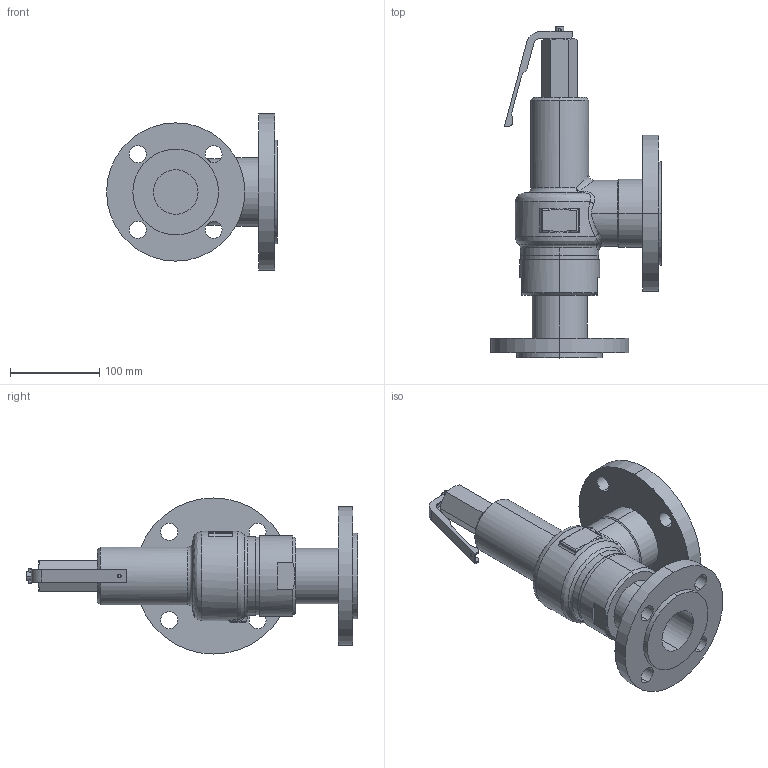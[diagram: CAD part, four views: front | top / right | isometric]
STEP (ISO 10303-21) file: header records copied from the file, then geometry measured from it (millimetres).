
FILE_DESCRIPTION( (''), '2;1');
FILE_NAME ('PC1276.5360.AL-32ML 50A_32541.stp','2025-12-05T09:11:05',(''),(''),'spGate 20.6.3 (****-****-****-****)','','');
FILE_SCHEMA (('AUTOMOTIVE_DESIGN'));
Length unit declared in the file: millimetre
Products named in the file (3): Assembly; AL-15 Lever 40-50A; AL-32ML 50A(non-lever)-3D
Assembly tree (2 placements, depth 2):
  Assembly
    AL-15 Lever 40-50A
    AL-32ML 50A(non-lever)-3D
Bounding box: 191.5 x 372 x 175 mm (x, y, z)
Volume: 2089248.3 mm3; surface area: 220608.8 mm2
Topology: 2 solids, 2 shells, 182 faces, 461 edges, 292 vertices
Faces by surface type: cylinder 77, plane 58, bspline 45, sphere 2
Entity records: 11320 total; most frequent: CARTESIAN_POINT 3544, ORIENTED_EDGE 910, DIRECTION 798, COLOUR_RGB 639, PRESENTATION_STYLE_ASSIGNMENT 639, STYLED_ITEM 639, EDGE_CURVE 455, DRAUGHTING_PRE_DEFINED_CURVE_FONT 455
